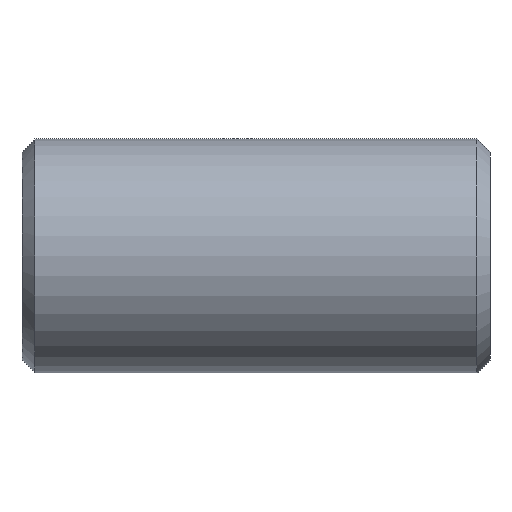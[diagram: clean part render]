
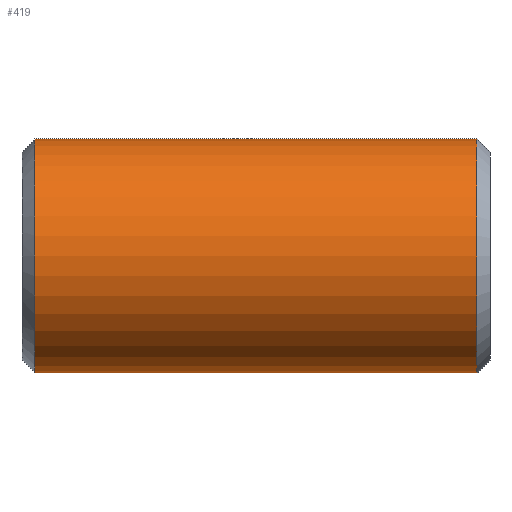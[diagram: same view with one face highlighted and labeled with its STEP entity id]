
A CAD part, front view. The second image highlights one B-rep face of the part: STEP entity #419.
In plain terms, the highlighted cylindrical face has radius 9 mm (diameter 18 mm), a partial arc.
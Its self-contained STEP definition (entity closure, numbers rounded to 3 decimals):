
#231=CARTESIAN_POINT('Vertex',(1.,0.,-9.)) ;
#238=CARTESIAN_POINT('Vertex',(1.,0.,9.)) ;
#267=CARTESIAN_POINT('Axis2P3D Location',(1.,0.,0.)) ;
#271=CARTESIAN_POINT('Vertex',(1.,-9.,0.)) ;
#274=CARTESIAN_POINT('Axis2P3D Location',(1.,0.,0.)) ;
#359=CARTESIAN_POINT('Line Origine',(36.,0.,9.)) ;
#363=CARTESIAN_POINT('Vertex',(35.,0.,9.)) ;
#377=CARTESIAN_POINT('Vertex',(35.,0.,-9.)) ;
#380=CARTESIAN_POINT('Line Origine',(36.,0.,-9.)) ;
#394=CARTESIAN_POINT('Axis2P3D Location',(36.,0.,0.)) ;
#399=CARTESIAN_POINT('Axis2P3D Location',(35.,0.,0.)) ;
#403=CARTESIAN_POINT('Vertex',(35.,-9.,0.)) ;
#406=CARTESIAN_POINT('Axis2P3D Location',(35.,0.,0.)) ;
#268=DIRECTION('Axis2P3D Direction',(1.,0.,-0.)) ;
#275=DIRECTION('Axis2P3D Direction',(1.,0.,-0.)) ;
#360=DIRECTION('Vector Direction',(-1.,0.,0.)) ;
#381=DIRECTION('Vector Direction',(-1.,0.,0.)) ;
#395=DIRECTION('Axis2P3D Direction',(-1.,-0.,-0.)) ;
#396=DIRECTION('Axis2P3D XDirection',(0.,0.,-1.)) ;
#400=DIRECTION('Axis2P3D Direction',(-1.,-0.,-0.)) ;
#407=DIRECTION('Axis2P3D Direction',(-1.,-0.,-0.)) ;
#269=AXIS2_PLACEMENT_3D('Circle Axis2P3D',#267,#268,$) ;
#276=AXIS2_PLACEMENT_3D('Circle Axis2P3D',#274,#275,$) ;
#397=AXIS2_PLACEMENT_3D('Cylinder Axis2P3D',#394,#395,#396) ;
#401=AXIS2_PLACEMENT_3D('Circle Axis2P3D',#399,#400,$) ;
#408=AXIS2_PLACEMENT_3D('Circle Axis2P3D',#406,#407,$) ;
#412=ORIENTED_EDGE('',*,*,#384,.T.) ;
#413=ORIENTED_EDGE('',*,*,#405,.F.) ;
#414=ORIENTED_EDGE('',*,*,#410,.F.) ;
#415=ORIENTED_EDGE('',*,*,#365,.T.) ;
#416=ORIENTED_EDGE('',*,*,#278,.T.) ;
#417=ORIENTED_EDGE('',*,*,#273,.T.) ;
#361=VECTOR('Line Direction',#360,1.) ;
#382=VECTOR('Line Direction',#381,1.) ;
#419=ADVANCED_FACE('352-12X36',(#418),#398,.T.) ;
#270=CIRCLE('generated circle',#269,9.) ;
#277=CIRCLE('generated circle',#276,9.) ;
#402=CIRCLE('generated circle',#401,9.) ;
#409=CIRCLE('generated circle',#408,9.) ;
#398=CYLINDRICAL_SURFACE('generated cylinder',#397,9.) ;
#273=EDGE_CURVE('',#272,#232,#270,.T.) ;
#278=EDGE_CURVE('',#239,#272,#277,.T.) ;
#365=EDGE_CURVE('',#364,#239,#362,.T.) ;
#384=EDGE_CURVE('',#232,#378,#383,.F.) ;
#405=EDGE_CURVE('',#404,#378,#402,.F.) ;
#410=EDGE_CURVE('',#364,#404,#409,.F.) ;
#411=EDGE_LOOP('',(#412,#413,#414,#415,#416,#417)) ;
#418=FACE_OUTER_BOUND('',#411,.T.) ;
#362=LINE('Line',#359,#361) ;
#383=LINE('Line',#380,#382) ;
#232=VERTEX_POINT('',#231) ;
#239=VERTEX_POINT('',#238) ;
#272=VERTEX_POINT('',#271) ;
#364=VERTEX_POINT('',#363) ;
#378=VERTEX_POINT('',#377) ;
#404=VERTEX_POINT('',#403) ;
